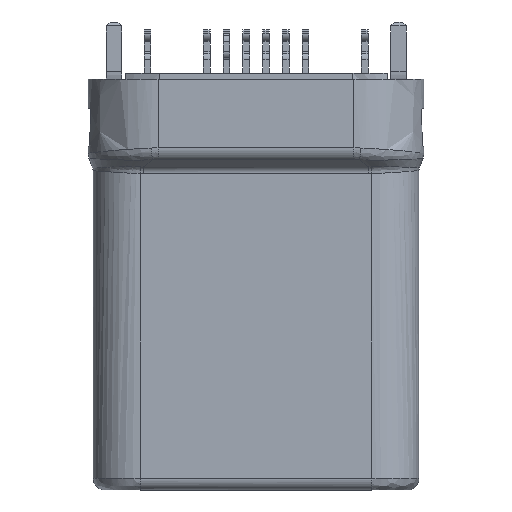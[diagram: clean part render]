
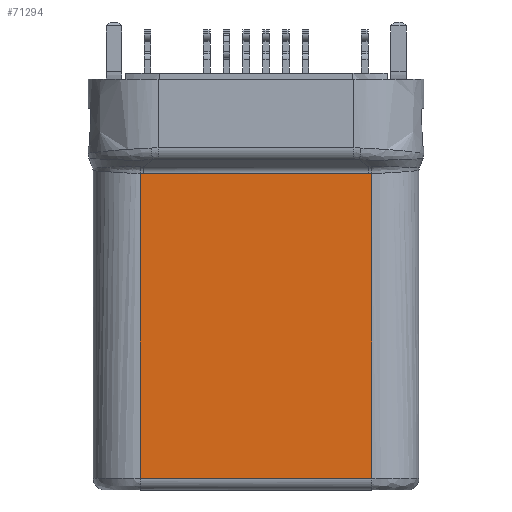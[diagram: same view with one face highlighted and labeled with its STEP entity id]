
A CAD part, front view. The second image highlights one B-rep face of the part: STEP entity #71294.
In plain terms, the highlighted free-form (B-spline) face has degree [1, 1] with [2, 2] control points.
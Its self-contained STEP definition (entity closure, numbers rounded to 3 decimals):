
#2109 = EDGE_CURVE ( 'NONE', #137327, #110275, #123640, .T. ) ;
#2674 = VERTEX_POINT ( 'NONE', #105227 ) ;
#4513 = B_SPLINE_CURVE_WITH_KNOTS ( 'NONE', 1,
 ( #8426, #109186 ),
 .UNSPECIFIED., .F., .F.,
 ( 2, 2 ),
 ( 0., 1. ),
 .UNSPECIFIED. ) ;
#5312 = CARTESIAN_POINT ( 'NONE',  ( -3.047, -1.2, -0.004 ) ) ;
#6141 = CARTESIAN_POINT ( 'NONE',  ( 2.844, -1.2, 7.862 ) ) ;
#7714 = CARTESIAN_POINT ( 'NONE',  ( 2.869, -1.2, 7.862 ) ) ;
#8426 = CARTESIAN_POINT ( 'NONE',  ( -2.854, -1.2, 7.862 ) ) ;
#12810 = ORIENTED_EDGE ( 'NONE', *, *, #2109, .F. ) ;
#15142 = EDGE_LOOP ( 'NONE', ( #27010, #131922, #12810, #54269, #69011, #60801 ) ) ;
#21333 = B_SPLINE_CURVE_WITH_KNOTS ( 'NONE', 3,
 ( #121084, #25739, #38498, #133079 ),
 .UNSPECIFIED., .F., .F.,
 ( 4, 4 ),
 ( 0., 1. ),
 .UNSPECIFIED. ) ;
#25739 = CARTESIAN_POINT ( 'NONE',  ( -2.905, -1.2, 7.863 ) ) ;
#25970 = CARTESIAN_POINT ( 'NONE',  ( 2.844, -1.2, 7.862 ) ) ;
#27010 = ORIENTED_EDGE ( 'NONE', *, *, #108808, .F. ) ;
#29326 = B_SPLINE_CURVE_WITH_KNOTS ( 'NONE', 3,
 ( #6141, #7714, #128587, #32463 ),
 .UNSPECIFIED., .F., .F.,
 ( 4, 4 ),
 ( 0., 1. ),
 .UNSPECIFIED. ) ;
#32463 = CARTESIAN_POINT ( 'NONE',  ( 2.92, -1.2, 7.864 ) ) ;
#37933 = CARTESIAN_POINT ( 'NONE',  ( -2.93, -1.2, 0.15 ) ) ;
#38498 = CARTESIAN_POINT ( 'NONE',  ( -2.879, -1.2, 7.862 ) ) ;
#50724 = EDGE_CURVE ( 'NONE', #89954, #59985, #29326, .T. ) ;
#54269 = ORIENTED_EDGE ( 'NONE', *, *, #154137, .F. ) ;
#59985 = VERTEX_POINT ( 'NONE', #66737 ) ;
#60801 = ORIENTED_EDGE ( 'NONE', *, *, #63595, .F. ) ;
#63595 = EDGE_CURVE ( 'NONE', #2674, #89954, #4513, .T. ) ;
#66737 = CARTESIAN_POINT ( 'NONE',  ( 2.92, -1.2, 7.864 ) ) ;
#69011 = ORIENTED_EDGE ( 'NONE', *, *, #50724, .F. ) ;
#71294 = ADVANCED_FACE ( 'NONE', ( #116524 ), #136069, .F. ) ;
#74903 = B_SPLINE_CURVE_WITH_KNOTS ( 'NONE', 1,
 ( #131974, #84676 ),
 .UNSPECIFIED., .F., .F.,
 ( 2, 2 ),
 ( 0., 1. ),
 .UNSPECIFIED. ) ;
#80505 = CARTESIAN_POINT ( 'NONE',  ( -3.047, -1.2, 8.018 ) ) ;
#83373 = CARTESIAN_POINT ( 'NONE',  ( 2.92, -1.2, 0.15 ) ) ;
#84676 = CARTESIAN_POINT ( 'NONE',  ( 2.92, -1.2, 0.15 ) ) ;
#89282 = EDGE_CURVE ( 'NONE', #89351, #110275, #141464, .T. ) ;
#89351 = VERTEX_POINT ( 'NONE', #129582 ) ;
#89954 = VERTEX_POINT ( 'NONE', #25970 ) ;
#90885 = CARTESIAN_POINT ( 'NONE',  ( 3.037, -1.2, -0.004 ) ) ;
#94558 = CARTESIAN_POINT ( 'NONE',  ( -2.93, -1.2, 0.15 ) ) ;
#100761 = CARTESIAN_POINT ( 'NONE',  ( -2.93, -1.2, 0.15 ) ) ;
#105227 = CARTESIAN_POINT ( 'NONE',  ( -2.854, -1.2, 7.862 ) ) ;
#108808 = EDGE_CURVE ( 'NONE', #89351, #2674, #21333, .T. ) ;
#109186 = CARTESIAN_POINT ( 'NONE',  ( 2.844, -1.2, 7.862 ) ) ;
#110275 = VERTEX_POINT ( 'NONE', #37933 ) ;
#111999 = CARTESIAN_POINT ( 'NONE',  ( -2.93, -1.2, 7.864 ) ) ;
#112209 = CARTESIAN_POINT ( 'NONE',  ( 2.92, -1.2, 0.15 ) ) ;
#116524 = FACE_OUTER_BOUND ( 'NONE', #15142, .T. ) ;
#121084 = CARTESIAN_POINT ( 'NONE',  ( -2.93, -1.2, 7.864 ) ) ;
#123640 = B_SPLINE_CURVE_WITH_KNOTS ( 'NONE', 1,
 ( #83373, #94558 ),
 .UNSPECIFIED., .F., .F.,
 ( 2, 2 ),
 ( 0., 1. ),
 .UNSPECIFIED. ) ;
#128587 = CARTESIAN_POINT ( 'NONE',  ( 2.895, -1.2, 7.863 ) ) ;
#129354 = CARTESIAN_POINT ( 'NONE',  ( 3.037, -1.2, 8.018 ) ) ;
#129582 = CARTESIAN_POINT ( 'NONE',  ( -2.93, -1.2, 7.864 ) ) ;
#131922 = ORIENTED_EDGE ( 'NONE', *, *, #89282, .T. ) ;
#131974 = CARTESIAN_POINT ( 'NONE',  ( 2.92, -1.2, 7.864 ) ) ;
#133079 = CARTESIAN_POINT ( 'NONE',  ( -2.854, -1.2, 7.862 ) ) ;
#136069 = B_SPLINE_SURFACE_WITH_KNOTS ( 'NONE', 1, 1, ( 
 ( #5312, #90885 ),
 ( #80505, #129354 ) ),
 .UNSPECIFIED., .F., .F., .F.,
 ( 2, 2 ),
 ( 2, 2 ),
 ( -8.134, -0.112 ),
 ( -0.117, 5.967 ),
 .UNSPECIFIED. ) ;
#137327 = VERTEX_POINT ( 'NONE', #112209 ) ;
#141464 = B_SPLINE_CURVE_WITH_KNOTS ( 'NONE', 1,
 ( #111999, #100761 ),
 .UNSPECIFIED., .F., .F.,
 ( 2, 2 ),
 ( 0., 1. ),
 .UNSPECIFIED. ) ;
#154137 = EDGE_CURVE ( 'NONE', #59985, #137327, #74903, .T. ) ;
